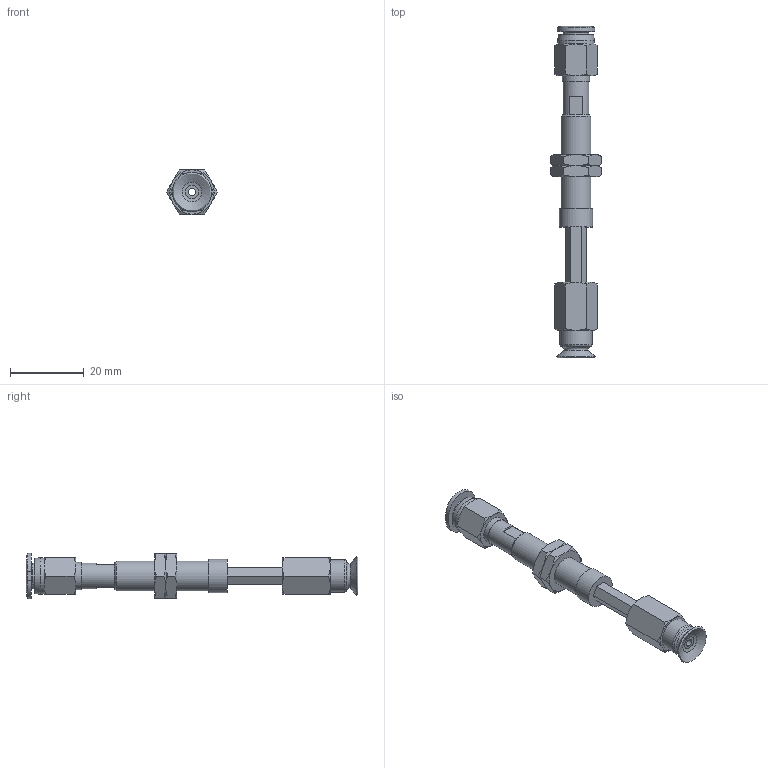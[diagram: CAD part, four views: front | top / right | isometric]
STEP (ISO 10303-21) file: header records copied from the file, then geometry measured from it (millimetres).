
FILE_DESCRIPTION(('STEP AP203'),'1');
FILE_NAME('-O.stp','2025-08-27T03:10:41',(' '),(' '),'Spatial InterOp 3D',' ',' ');
FILE_SCHEMA(('CONFIG_CONTROL_DESIGN'));
Length unit declared in the file: millimetre
Products named in the file (7): BNABPFTH-10A-15-※-O; ADAPTER; NAPATH-10A-15--M; Nut-10A-15-h; NAPFTH-10A-15-FBODY; BPFG-10A-※; PC-C_06-M5
Assembly tree (7 placements, depth 2):
  BNABPFTH-10A-15-※-O
    ADAPTER
    NAPATH-10A-15--M
    Nut-10A-15-h  x2
    NAPFTH-10A-15-FBODY
    BPFG-10A-※
    PC-C_06-M5
Bounding box: 13.86 x 89.98 x 12.4 mm (x, y, z)
Volume: 3928.3 mm3; surface area: 5816.7 mm2
Topology: 6 solids, 9 shells, 174 faces, 366 edges, 223 vertices
Faces by surface type: plane 71, cone 62, cylinder 23, torus 10, bspline 5, revolution 3
Full cylindrical faces by diameter (mm): 2 x3, 4 x4, 4.134 x1, 5 x1, 6 x2, 7 x2, 7.188 x2, 7.4 x1, 8 x1, 8.2 x1, 8.7 x1, 9 x1, 10 x1
Entity records: 4515 total; most frequent: CARTESIAN_POINT 1271, DIRECTION 597, ORIENTED_EDGE 522, EDGE_CURVE 263, AXIS2_PLACEMENT_3D 259, EDGE_LOOP 222, VERTEX_POINT 185, FACE_OUTER_BOUND 122
